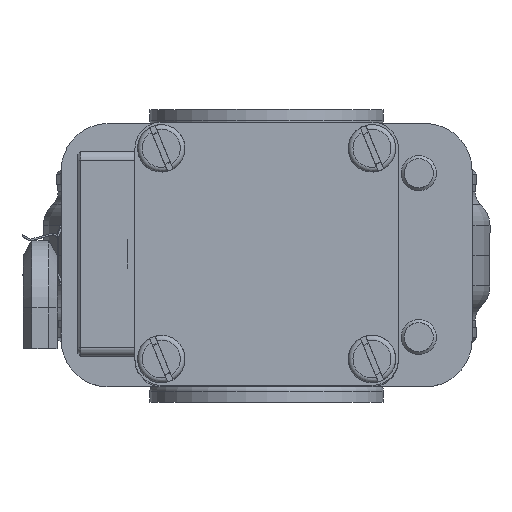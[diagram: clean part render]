
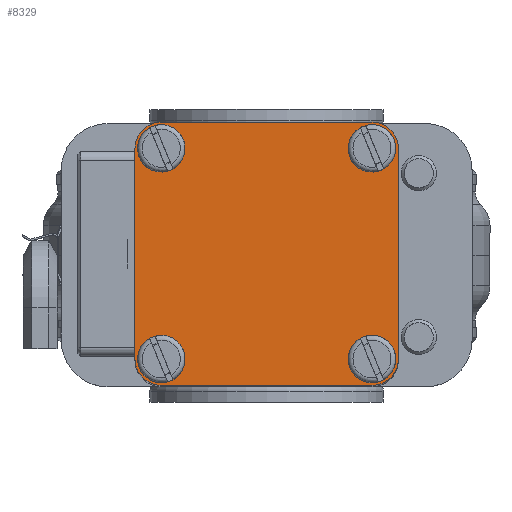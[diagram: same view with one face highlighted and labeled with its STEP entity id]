
A CAD part, top view. The second image highlights one B-rep face of the part: STEP entity #8329.
In plain terms, the highlighted planar face has unit normal (0, 0, 1) as drawn and (-1, 0, 0) by its records, which use the part's own axes.
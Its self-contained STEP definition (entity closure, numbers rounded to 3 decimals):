
#6186=LINE('',#26516,#7246);
#6187=LINE('',#26521,#7247);
#6188=LINE('',#26525,#7248);
#6189=LINE('',#26529,#7249);
#7246=VECTOR('',#21287,1.);
#7247=VECTOR('',#21290,1.);
#7248=VECTOR('',#21293,1.);
#7249=VECTOR('',#21296,1.);
#8329=ADVANCED_FACE('',(#10155,#10156,#10157,#10158,#10159),#9062,.T.);
#9062=PLANE('',#19520);
#10155=FACE_BOUND('',#10749,.T.);
#10156=FACE_BOUND('',#10750,.T.);
#10157=FACE_BOUND('',#10751,.T.);
#10158=FACE_BOUND('',#10752,.T.);
#10159=FACE_BOUND('',#10753,.T.);
#10749=EDGE_LOOP('',(#12489));
#10750=EDGE_LOOP('',(#12490));
#10751=EDGE_LOOP('',(#12491,#12492,#12493,#12494,#12495,#12496,#12497,#12498));
#10752=EDGE_LOOP('',(#12499));
#10753=EDGE_LOOP('',(#12500));
#12489=ORIENTED_EDGE('',*,*,#17270,.T.);
#12490=ORIENTED_EDGE('',*,*,#17271,.T.);
#12491=ORIENTED_EDGE('',*,*,#17272,.T.);
#12492=ORIENTED_EDGE('',*,*,#17273,.T.);
#12493=ORIENTED_EDGE('',*,*,#17274,.T.);
#12494=ORIENTED_EDGE('',*,*,#17275,.T.);
#12495=ORIENTED_EDGE('',*,*,#17276,.T.);
#12496=ORIENTED_EDGE('',*,*,#17277,.T.);
#12497=ORIENTED_EDGE('',*,*,#17278,.T.);
#12498=ORIENTED_EDGE('',*,*,#17279,.T.);
#12499=ORIENTED_EDGE('',*,*,#17280,.T.);
#12500=ORIENTED_EDGE('',*,*,#17281,.T.);
#15793=VERTEX_POINT('',#26513);
#15794=VERTEX_POINT('',#26515);
#15795=VERTEX_POINT('',#26517);
#15796=VERTEX_POINT('',#26518);
#15797=VERTEX_POINT('',#26520);
#15798=VERTEX_POINT('',#26522);
#15799=VERTEX_POINT('',#26524);
#15800=VERTEX_POINT('',#26526);
#15801=VERTEX_POINT('',#26528);
#15802=VERTEX_POINT('',#26530);
#15803=VERTEX_POINT('',#26533);
#15804=VERTEX_POINT('',#26535);
#17270=EDGE_CURVE('',#15793,#15793,#18864,.T.);
#17271=EDGE_CURVE('',#15794,#15794,#18865,.T.);
#17272=EDGE_CURVE('',#15795,#15796,#6186,.T.);
#17273=EDGE_CURVE('',#15796,#15797,#18866,.T.);
#17274=EDGE_CURVE('',#15797,#15798,#6187,.T.);
#17275=EDGE_CURVE('',#15798,#15799,#18867,.T.);
#17276=EDGE_CURVE('',#15799,#15800,#6188,.T.);
#17277=EDGE_CURVE('',#15800,#15801,#18868,.T.);
#17278=EDGE_CURVE('',#15801,#15802,#6189,.T.);
#17279=EDGE_CURVE('',#15802,#15795,#18869,.T.);
#17280=EDGE_CURVE('',#15803,#15803,#18870,.T.);
#17281=EDGE_CURVE('',#15804,#15804,#18871,.T.);
#18864=CIRCLE('',#19512,2.8);
#18865=CIRCLE('',#19513,2.8);
#18866=CIRCLE('',#19514,4.5);
#18867=CIRCLE('',#19515,4.5);
#18868=CIRCLE('',#19516,4.5);
#18869=CIRCLE('',#19517,4.5);
#18870=CIRCLE('',#19518,2.8);
#18871=CIRCLE('',#19519,2.8);
#19512=AXIS2_PLACEMENT_3D('',#26512,#21283,#21284);
#19513=AXIS2_PLACEMENT_3D('',#26514,#21285,#21286);
#19514=AXIS2_PLACEMENT_3D('',#26519,#21288,#21289);
#19515=AXIS2_PLACEMENT_3D('',#26523,#21291,#21292);
#19516=AXIS2_PLACEMENT_3D('',#26527,#21294,#21295);
#19517=AXIS2_PLACEMENT_3D('',#26531,#21297,#21298);
#19518=AXIS2_PLACEMENT_3D('',#26532,#21299,#21300);
#19519=AXIS2_PLACEMENT_3D('',#26534,#21301,#21302);
#19520=AXIS2_PLACEMENT_3D('',#26536,#21303,#21304);
#21283=DIRECTION('',(1.,0.,0.));
#21284=DIRECTION('',(0.,0.,1.));
#21285=DIRECTION('',(1.,0.,0.));
#21286=DIRECTION('',(0.,0.,1.));
#21287=DIRECTION('',(0.,1.,0.));
#21288=DIRECTION('',(-1.,0.,0.));
#21289=DIRECTION('',(0.,0.,1.));
#21290=DIRECTION('',(0.,0.,-1.));
#21291=DIRECTION('',(-1.,0.,0.));
#21292=DIRECTION('',(0.,1.,0.));
#21293=DIRECTION('',(0.,-1.,0.));
#21294=DIRECTION('',(-1.,0.,0.));
#21295=DIRECTION('',(0.,0.,-1.));
#21296=DIRECTION('',(0.,0.,1.));
#21297=DIRECTION('',(-1.,0.,0.));
#21298=DIRECTION('',(0.,0.,1.));
#21299=DIRECTION('',(1.,0.,0.));
#21300=DIRECTION('',(0.,0.,1.));
#21301=DIRECTION('',(1.,0.,0.));
#21302=DIRECTION('',(0.,0.,1.));
#21303=DIRECTION('',(-1.,0.,0.));
#21304=DIRECTION('',(0.,0.,1.));
#26512=CARTESIAN_POINT('',(0.,4.5,4.5));
#26513=CARTESIAN_POINT('',(0.,4.5,7.3));
#26514=CARTESIAN_POINT('',(0.,40.5,40.5));
#26515=CARTESIAN_POINT('',(0.,40.5,43.3));
#26516=CARTESIAN_POINT('',(0.,4.5,45.));
#26517=CARTESIAN_POINT('',(0.,4.5,45.));
#26518=CARTESIAN_POINT('',(0.,40.5,45.));
#26519=CARTESIAN_POINT('',(0.,40.5,40.5));
#26520=CARTESIAN_POINT('',(0.,45.,40.5));
#26521=CARTESIAN_POINT('',(0.,45.,40.5));
#26522=CARTESIAN_POINT('',(0.,45.,4.5));
#26523=CARTESIAN_POINT('',(0.,40.5,4.5));
#26524=CARTESIAN_POINT('',(0.,40.5,0.));
#26525=CARTESIAN_POINT('',(0.,40.5,0.));
#26526=CARTESIAN_POINT('',(0.,4.5,0.));
#26527=CARTESIAN_POINT('',(0.,4.5,4.5));
#26528=CARTESIAN_POINT('',(0.,0.,4.5));
#26529=CARTESIAN_POINT('',(0.,0.,4.5));
#26530=CARTESIAN_POINT('',(0.,0.,40.5));
#26531=CARTESIAN_POINT('',(0.,4.5,40.5));
#26532=CARTESIAN_POINT('',(0.,40.5,4.5));
#26533=CARTESIAN_POINT('',(0.,40.5,7.3));
#26534=CARTESIAN_POINT('',(0.,4.5,40.5));
#26535=CARTESIAN_POINT('',(0.,4.5,43.3));
#26536=CARTESIAN_POINT('',(0.,40.5,40.5));
